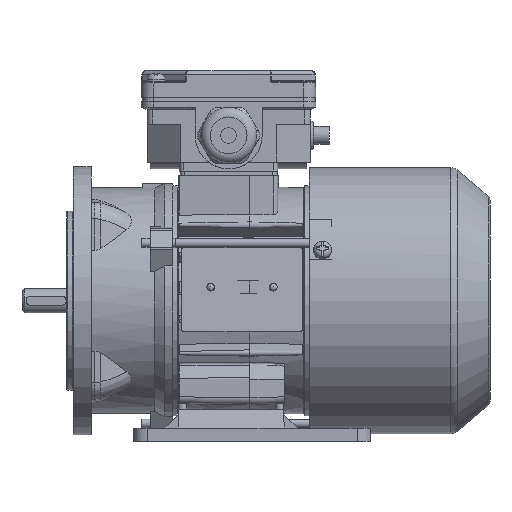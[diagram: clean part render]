
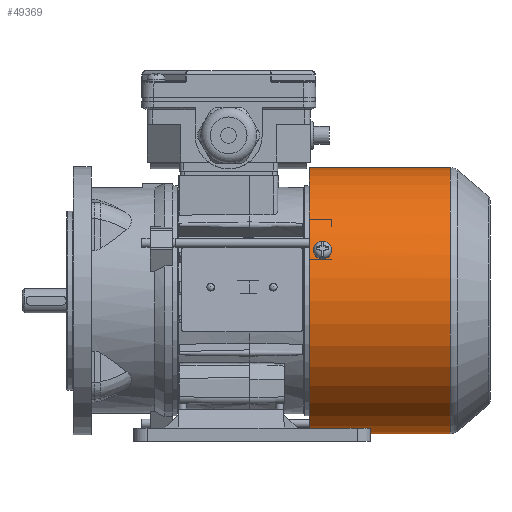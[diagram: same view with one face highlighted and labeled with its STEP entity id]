
A CAD part, front view. The second image highlights one B-rep face of the part: STEP entity #49369.
In plain terms, the highlighted cylindrical face has radius 59.6 mm (diameter 119.2 mm), a full revolution.
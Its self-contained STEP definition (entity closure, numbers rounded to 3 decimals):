
#743=B_SPLINE_CURVE_WITH_KNOTS('',3,(#65716,#65717,#65718,#65719,#65720,
#65721,#65722),.UNSPECIFIED.,.F.,.F.,(4,1,1,1,4),(0.,
0.002,0.004,0.006,0.007),
 .UNSPECIFIED.);
#744=B_SPLINE_CURVE_WITH_KNOTS('',3,(#65728,#65729,#65730,#65731,#65732,
#65733,#65734),.UNSPECIFIED.,.F.,.F.,(4,1,1,1,4),(0.,
0.002,0.004,0.006,0.007),
 .UNSPECIFIED.);
#745=B_SPLINE_CURVE_WITH_KNOTS('',3,(#65767,#65768,#65769,#65770,#65771,
#65772,#65773),.UNSPECIFIED.,.F.,.F.,(4,1,1,1,4),(0.,0.002,
0.004,0.006,0.008),
 .UNSPECIFIED.);
#746=B_SPLINE_CURVE_WITH_KNOTS('',3,(#65777,#65778,#65779,#65780,#65781,
#65782,#65783),.UNSPECIFIED.,.F.,.F.,(4,1,1,1,4),(0.,
0.002,0.004,0.006,0.008),
 .UNSPECIFIED.);
#747=B_SPLINE_CURVE_WITH_KNOTS('',3,(#65787,#65788,#65789,#65790,#65791,
#65792,#65793),.UNSPECIFIED.,.F.,.F.,(4,1,1,1,4),(0.,0.002,
0.004,0.006,0.008),
 .UNSPECIFIED.);
#748=B_SPLINE_CURVE_WITH_KNOTS('',3,(#65797,#65798,#65799,#65800,#65801,
#65802,#65803),.UNSPECIFIED.,.F.,.F.,(4,1,1,1,4),(0.,0.002,
0.004,0.006,0.008),
 .UNSPECIFIED.);
#1607=CYLINDRICAL_SURFACE('',#51468,59.6);
#8151=ORIENTED_EDGE('',*,*,#18800,.T.);
#8152=ORIENTED_EDGE('',*,*,#18801,.T.);
#8153=ORIENTED_EDGE('',*,*,#18802,.T.);
#8154=ORIENTED_EDGE('',*,*,#18803,.T.);
#8155=ORIENTED_EDGE('',*,*,#18783,.F.);
#8156=ORIENTED_EDGE('',*,*,#18786,.F.);
#8157=ORIENTED_EDGE('',*,*,#18804,.T.);
#8158=ORIENTED_EDGE('',*,*,#18805,.T.);
#8159=ORIENTED_EDGE('',*,*,#18806,.T.);
#8160=ORIENTED_EDGE('',*,*,#18807,.T.);
#8161=ORIENTED_EDGE('',*,*,#18808,.F.);
#8162=ORIENTED_EDGE('',*,*,#18809,.T.);
#18783=EDGE_CURVE('',#24142,#24143,#743,.T.);
#18786=EDGE_CURVE('',#24143,#24142,#744,.T.);
#18800=EDGE_CURVE('',#24158,#24159,#27678,.F.);
#18801=EDGE_CURVE('',#24159,#24160,#745,.T.);
#18802=EDGE_CURVE('',#24160,#24161,#27679,.F.);
#18803=EDGE_CURVE('',#24161,#24158,#746,.T.);
#18804=EDGE_CURVE('',#24162,#24163,#27680,.F.);
#18805=EDGE_CURVE('',#24163,#24164,#747,.T.);
#18806=EDGE_CURVE('',#24164,#24165,#27681,.F.);
#18807=EDGE_CURVE('',#24165,#24162,#748,.T.);
#18808=EDGE_CURVE('',#24166,#24166,#27682,.T.);
#18809=EDGE_CURVE('',#24167,#24167,#27683,.F.);
#24142=VERTEX_POINT('',#65714);
#24143=VERTEX_POINT('',#65715);
#24158=VERTEX_POINT('',#65765);
#24159=VERTEX_POINT('',#65766);
#24160=VERTEX_POINT('',#65774);
#24161=VERTEX_POINT('',#65776);
#24162=VERTEX_POINT('',#65785);
#24163=VERTEX_POINT('',#65786);
#24164=VERTEX_POINT('',#65794);
#24165=VERTEX_POINT('',#65796);
#24166=VERTEX_POINT('',#65805);
#24167=VERTEX_POINT('',#65807);
#27678=CIRCLE('',#51469,59.6);
#27679=CIRCLE('',#51470,59.6);
#27680=CIRCLE('',#51471,59.6);
#27681=CIRCLE('',#51472,59.6);
#27682=CIRCLE('',#51473,59.6);
#27683=CIRCLE('',#51474,59.6);
#29194=EDGE_LOOP('',(#8151,#8152,#8153,#8154));
#29195=EDGE_LOOP('',(#8155,#8156));
#29196=EDGE_LOOP('',(#8157,#8158,#8159,#8160));
#29197=EDGE_LOOP('',(#8161));
#29198=EDGE_LOOP('',(#8162));
#31629=FACE_BOUND('',#29194,.T.);
#31630=FACE_BOUND('',#29195,.T.);
#31631=FACE_BOUND('',#29196,.T.);
#31632=FACE_BOUND('',#29197,.T.);
#31633=FACE_BOUND('',#29198,.T.);
#49369=ADVANCED_FACE('',(#31629,#31630,#31631,#31632,#31633),#1607,.T.);
#51468=AXIS2_PLACEMENT_3D('',#65763,#55410,#55411);
#51469=AXIS2_PLACEMENT_3D('',#65764,#55412,#55413);
#51470=AXIS2_PLACEMENT_3D('',#65775,#55414,#55415);
#51471=AXIS2_PLACEMENT_3D('',#65784,#55416,#55417);
#51472=AXIS2_PLACEMENT_3D('',#65795,#55418,#55419);
#51473=AXIS2_PLACEMENT_3D('',#65804,#55420,#55421);
#51474=AXIS2_PLACEMENT_3D('',#65806,#55422,#55423);
#55410=DIRECTION('',(-1.,0.,0.));
#55411=DIRECTION('',(0.,0.,1.));
#55412=DIRECTION('',(-1.,0.,0.));
#55413=DIRECTION('',(0.,0.866,-0.5));
#55414=DIRECTION('',(1.,0.,0.));
#55415=DIRECTION('',(0.,-0.866,0.5));
#55416=DIRECTION('',(-1.,0.,0.));
#55417=DIRECTION('',(0.,0.,1.));
#55418=DIRECTION('',(1.,0.,0.));
#55419=DIRECTION('',(0.,0.,-1.));
#55420=DIRECTION('',(-1.,0.,0.));
#55421=DIRECTION('',(0.,0.,1.));
#55422=DIRECTION('',(1.,0.,0.));
#55423=DIRECTION('',(0.,0.,-1.));
#65714=CARTESIAN_POINT('',(35.,8.295,-59.02));
#65715=CARTESIAN_POINT('',(30.,8.295,-59.02));
#65716=CARTESIAN_POINT('',(35.,8.295,-59.02));
#65717=CARTESIAN_POINT('',(34.937,7.681,-59.106));
#65718=CARTESIAN_POINT('',(34.356,6.499,-59.249));
#65719=CARTESIAN_POINT('',(32.502,5.777,-59.318));
#65720=CARTESIAN_POINT('',(30.649,6.493,-59.25));
#65721=CARTESIAN_POINT('',(30.063,7.681,-59.106));
#65722=CARTESIAN_POINT('',(30.,8.295,-59.02));
#65728=CARTESIAN_POINT('',(30.,8.295,-59.02));
#65729=CARTESIAN_POINT('',(30.063,8.908,-58.934));
#65730=CARTESIAN_POINT('',(30.644,10.084,-58.746));
#65731=CARTESIAN_POINT('',(32.498,10.797,-58.613));
#65732=CARTESIAN_POINT('',(34.351,10.09,-58.745));
#65733=CARTESIAN_POINT('',(34.937,8.908,-58.934));
#65734=CARTESIAN_POINT('',(35.,8.295,-59.02));
#65763=CARTESIAN_POINT('',(-33.5,0.,0.));
#65764=CARTESIAN_POINT('',(35.,0.,0.));
#65765=CARTESIAN_POINT('',(35.,47.484,36.02));
#65766=CARTESIAN_POINT('',(35.,46.437,37.36));
#65767=CARTESIAN_POINT('',(35.,46.437,37.36));
#65768=CARTESIAN_POINT('',(35.,46.023,37.874));
#65769=CARTESIAN_POINT('',(34.458,45.191,38.867));
#65770=CARTESIAN_POINT('',(32.502,44.648,39.479));
#65771=CARTESIAN_POINT('',(30.542,45.19,38.869));
#65772=CARTESIAN_POINT('',(30.,46.023,37.874));
#65773=CARTESIAN_POINT('',(30.,46.437,37.36));
#65774=CARTESIAN_POINT('',(30.,46.437,37.36));
#65775=CARTESIAN_POINT('',(30.,0.,0.));
#65776=CARTESIAN_POINT('',(30.,47.484,36.02));
#65777=CARTESIAN_POINT('',(30.,47.484,36.02));
#65778=CARTESIAN_POINT('',(30.,47.883,35.493));
#65779=CARTESIAN_POINT('',(30.542,48.645,34.446));
#65780=CARTESIAN_POINT('',(32.498,49.108,33.771));
#65781=CARTESIAN_POINT('',(34.458,48.646,34.444));
#65782=CARTESIAN_POINT('',(35.,47.883,35.493));
#65783=CARTESIAN_POINT('',(35.,47.484,36.02));
#65784=CARTESIAN_POINT('',(35.,0.,0.));
#65785=CARTESIAN_POINT('',(35.,-54.936,23.112));
#65786=CARTESIAN_POINT('',(35.,-55.573,21.536));
#65787=CARTESIAN_POINT('',(35.,-55.573,21.536));
#65788=CARTESIAN_POINT('',(35.,-55.812,20.92));
#65789=CARTESIAN_POINT('',(34.458,-56.255,19.703));
#65790=CARTESIAN_POINT('',(32.502,-56.514,18.927));
#65791=CARTESIAN_POINT('',(30.542,-56.256,19.701));
#65792=CARTESIAN_POINT('',(30.,-55.812,20.92));
#65793=CARTESIAN_POINT('',(30.,-55.573,21.536));
#65794=CARTESIAN_POINT('',(30.,-55.573,21.536));
#65795=CARTESIAN_POINT('',(30.,0.,0.));
#65796=CARTESIAN_POINT('',(30.,-54.936,23.112));
#65797=CARTESIAN_POINT('',(30.,-54.936,23.112));
#65798=CARTESIAN_POINT('',(30.,-54.68,23.721));
#65799=CARTESIAN_POINT('',(30.542,-54.154,24.905));
#65800=CARTESIAN_POINT('',(32.498,-53.8,25.643));
#65801=CARTESIAN_POINT('',(34.458,-54.153,24.907));
#65802=CARTESIAN_POINT('',(35.,-54.68,23.721));
#65803=CARTESIAN_POINT('',(35.,-54.936,23.112));
#65804=CARTESIAN_POINT('',(26.5,0.,0.));
#65805=CARTESIAN_POINT('',(26.5,0.,59.6));
#65806=CARTESIAN_POINT('',(89.809,0.,0.));
#65807=CARTESIAN_POINT('',(89.809,0.,-59.6));
